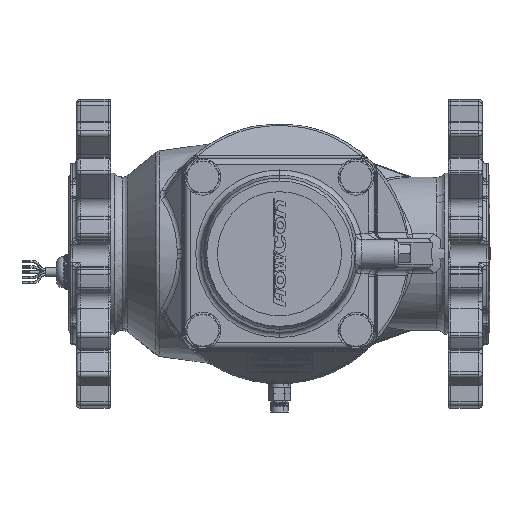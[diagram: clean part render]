
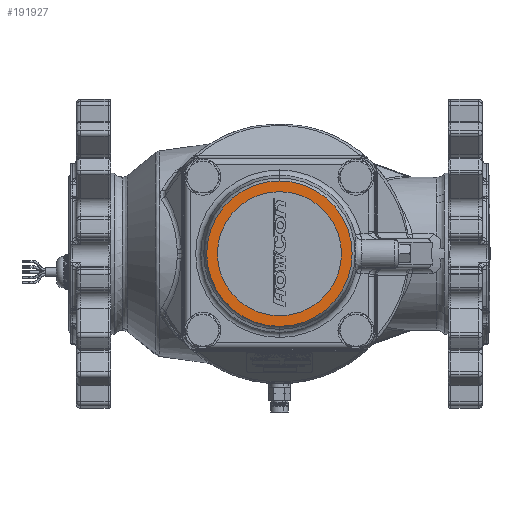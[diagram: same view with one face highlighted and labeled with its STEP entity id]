
A CAD part, front view. The second image highlights one B-rep face of the part: STEP entity #191927.
In plain terms, the highlighted planar face has unit normal (0, -1, 0).
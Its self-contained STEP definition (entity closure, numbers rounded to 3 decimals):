
#1611 = AXIS2_PLACEMENT_3D ( 'NONE', #89112, #197383, #42957 ) ;
#17665 = CIRCLE ( 'NONE', #1611, 55.067 ) ;
#21518 = AXIS2_PLACEMENT_3D ( 'NONE', #56031, #39998, #90076 ) ;
#22939 = CARTESIAN_POINT ( 'NONE',  ( 0., -143.6, 0. ) ) ;
#37997 = AXIS2_PLACEMENT_3D ( 'NONE', #55034, #196358, #120143 ) ;
#39998 = DIRECTION ( 'NONE',  ( 0., -1., 0. ) ) ;
#42957 = DIRECTION ( 'NONE',  ( 0., 0., -1. ) ) ;
#46370 = VERTEX_POINT ( 'NONE', #55383 ) ;
#52008 = DIRECTION ( 'NONE',  ( 0., 0., -1. ) ) ;
#52340 = CARTESIAN_POINT ( 'NONE',  ( 0., -143.6, -55.067 ) ) ;
#53166 = CIRCLE ( 'NONE', #168380, 47. ) ;
#55034 = CARTESIAN_POINT ( 'NONE',  ( 0., -143.6, 66.831 ) ) ;
#55383 = CARTESIAN_POINT ( 'NONE',  ( 0., -143.6, 55.067 ) ) ;
#56031 = CARTESIAN_POINT ( 'NONE',  ( 0., -143.6, 0. ) ) ;
#63201 = CIRCLE ( 'NONE', #21518, 47. ) ;
#72046 = FACE_OUTER_BOUND ( 'NONE', #112224, .T. ) ;
#80994 = ORIENTED_EDGE ( 'NONE', *, *, #176614, .T. ) ;
#86033 = ORIENTED_EDGE ( 'NONE', *, *, #99279, .T. ) ;
#89112 = CARTESIAN_POINT ( 'NONE',  ( 0., -143.6, 0. ) ) ;
#90076 = DIRECTION ( 'NONE',  ( 0., 0., 1. ) ) ;
#99279 = EDGE_CURVE ( 'NONE', #153200, #46370, #17665, .T. ) ;
#103115 = PLANE ( 'NONE',  #37997 ) ;
#108816 = DIRECTION ( 'NONE',  ( 0., -1., 0. ) ) ;
#112224 = EDGE_LOOP ( 'NONE', ( #80994, #86033 ) ) ;
#120143 = DIRECTION ( 'NONE',  ( 0., 0., -1. ) ) ;
#127769 = EDGE_CURVE ( 'NONE', #192265, #154355, #53166, .T. ) ;
#132166 = DIRECTION ( 'NONE',  ( 0., -1., 0. ) ) ;
#145623 = CIRCLE ( 'NONE', #190397, 55.067 ) ;
#148221 = FACE_BOUND ( 'NONE', #162277, .T. ) ;
#153200 = VERTEX_POINT ( 'NONE', #52340 ) ;
#154355 = VERTEX_POINT ( 'NONE', #155500 ) ;
#155500 = CARTESIAN_POINT ( 'NONE',  ( 0., -143.6, -47. ) ) ;
#156688 = ORIENTED_EDGE ( 'NONE', *, *, #127769, .F. ) ;
#156956 = ORIENTED_EDGE ( 'NONE', *, *, #180681, .F. ) ;
#162277 = EDGE_LOOP ( 'NONE', ( #156688, #156956 ) ) ;
#167970 = CARTESIAN_POINT ( 'NONE',  ( 0., -143.6, 0. ) ) ;
#167999 = CARTESIAN_POINT ( 'NONE',  ( 0., -143.6, 47. ) ) ;
#168380 = AXIS2_PLACEMENT_3D ( 'NONE', #167970, #108816, #181007 ) ;
#176614 = EDGE_CURVE ( 'NONE', #46370, #153200, #145623, .T. ) ;
#180681 = EDGE_CURVE ( 'NONE', #154355, #192265, #63201, .T. ) ;
#181007 = DIRECTION ( 'NONE',  ( 0., 0., 1. ) ) ;
#190397 = AXIS2_PLACEMENT_3D ( 'NONE', #22939, #132166, #52008 ) ;
#191927 = ADVANCED_FACE ( 'NONE', ( #72046, #148221 ), #103115, .F. ) ;
#192265 = VERTEX_POINT ( 'NONE', #167999 ) ;
#196358 = DIRECTION ( 'NONE',  ( 0., 1., 0. ) ) ;
#197383 = DIRECTION ( 'NONE',  ( 0., -1., 0. ) ) ;
